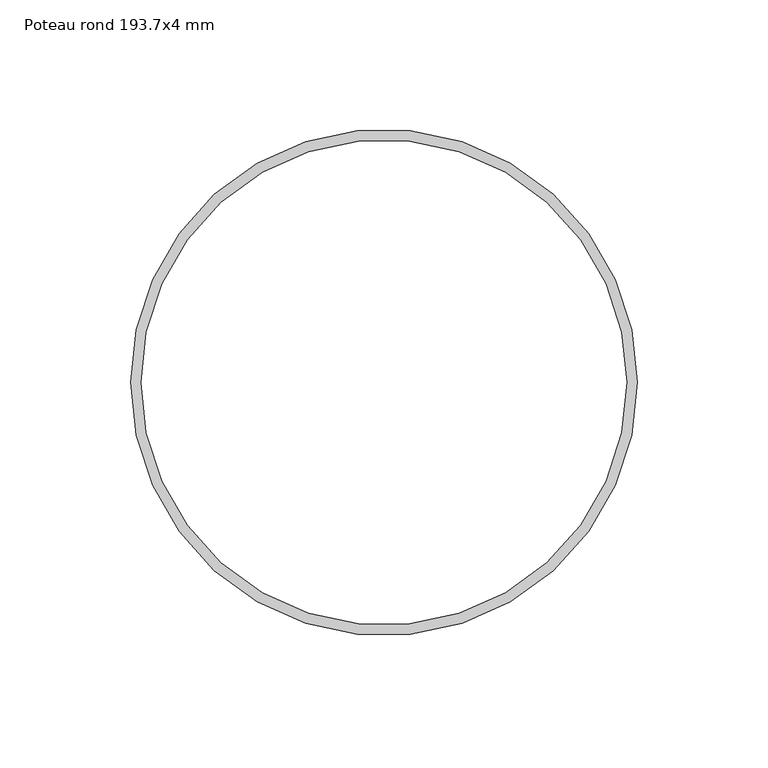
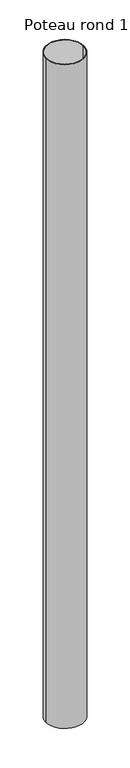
"""IFC4 building model written with IfcOpenShell, lengths in millimetres: column geometry, Poteau RO (EN 10219-2) : Poteau rond 193.7x4 mm."""

from ifc_helpers import new_model, si_unit, point, frame, origin, origin_2d, place, context, project, spatial, circle_curve, trimmed, segment, composite_curve, outline, extrude, source, transform, mapped, element, save


def poteau_rond_193_7x4_mm_6d145c25(model_context):
    return source(origin(), model_context, "Body", "SweptSolid", [
        extrude(outline(composite_curve([segment(trimmed(circle_curve(origin_2d(), 96.85), [point((-96.85, 0.0))], [point((96.85, 0.0))], False, "CARTESIAN"), True, "CONTINUOUS"), segment(trimmed(circle_curve(origin_2d(), 96.85), [point((96.85, 0.0))], [point((-96.85, 0.0))], False, "CARTESIAN"), True, "CONTINUOUS")], self_intersect=False), holes=[composite_curve([segment(trimmed(circle_curve(origin_2d(), 92.85), [point((-92.85, 0.0))], [point((92.85, 0.0))], True, "CARTESIAN"), True, "CONTINUOUS"), segment(trimmed(circle_curve(origin_2d(), 92.85), [point((92.85, 0.0))], [point((-92.85, 0.0))], True, "CARTESIAN"), True, "CONTINUOUS")], self_intersect=False)]), frame((0.0, 0.0, 869500.0), z_axis=(0.0, 0.0, 1.0), x_axis=(1.0, 0.0, 0.0)), (0.0, 0.0, 1.0), 3574.7156267),
    ])


if __name__ == "__main__":
    model = new_model("IFC4")
    model_context = context("Model", 3, world=origin())
    ifc_project = project(units=[si_unit("LENGTHUNIT", "METRE", prefix="MILLI")], contexts=[model_context])
    site = spatial("IfcSite", under=ifc_project)
    building = spatial("IfcBuilding", under=site)
    placement = place(None, origin())
    poteau_rond_193_7x4_mm_shape = poteau_rond_193_7x4_mm_6d145c25(model_context)
    element("IfcColumn", 1, ObjectType="Poteau RO (EN 10219-2) : Poteau rond 193.7x4 mm", at=placement, inside=building, context=model_context, shape_type="MappedRepresentation", body=[
        mapped(poteau_rond_193_7x4_mm_shape, transform((0.0, 0.0, 0.0), x_axis=(1.0, 0.0, 0.0), y_axis=(0.0, 1.0, 0.0), z_axis=(0.0, 0.0, 1.0))),
    ])
    save(model, "model.ifc")
